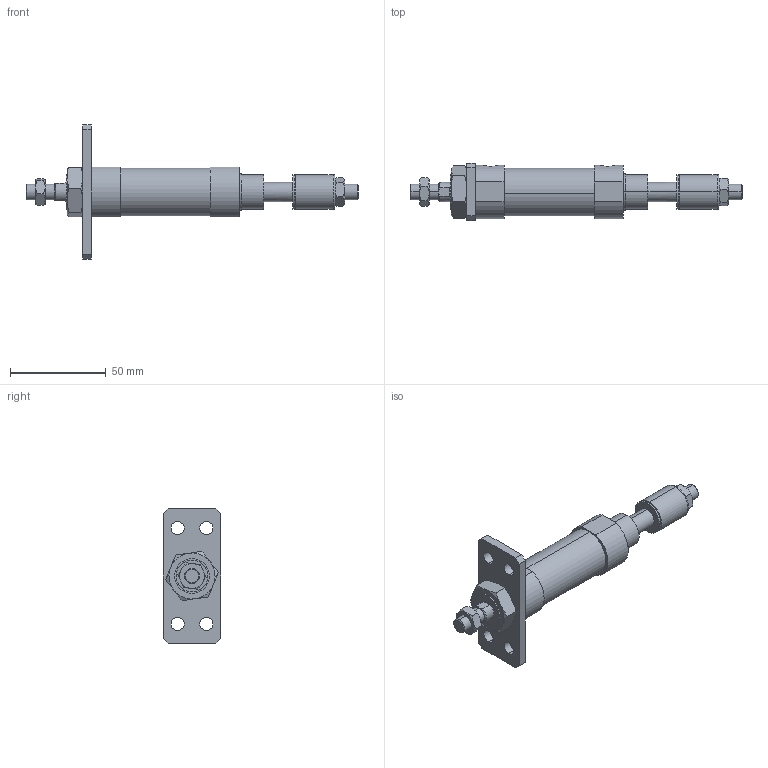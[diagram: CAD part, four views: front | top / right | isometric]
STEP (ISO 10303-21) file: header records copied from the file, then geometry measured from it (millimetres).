
FILE_DESCRIPTION (( 'STEP AP203' ), '1' );
FILE_NAME ('JGA7-20-15-A.STEP', '2016-04-20T01:19:18', ( '' ), ( '' ), 'SwSTEP 2.0', 'SolidWorks 2014', '' );
FILE_SCHEMA (( 'CONFIG_CONTROL_DESIGN' ));
Length unit declared in the file: millimetre
Products named in the file (8): JGA7-20-Turn; M18x1.5-8mm; 20-15; J#2-20-A; M8x1.25-5mm; JGA7-20A-15; JGA7-20-15-A; JGLH2-20B
Assembly tree (8 placements, depth 2):
  JGA7-20-15-A
    JGLH2-20B
    20-15
    JGA7-20A-15
    M8x1.25-5mm  x2
    M18x1.5-8mm
    J#2-20-A
    JGA7-20-Turn
Bounding box: 173 x 30 x 70 mm (x, y, z)
Volume: 65415.5 mm3; surface area: 23638.7 mm2
Topology: 8 solids, 8 shells, 165 faces, 362 edges, 226 vertices
Faces by surface type: plane 67, cylinder 52, torus 38, cone 8
Entity records: 5254 total; most frequent: CARTESIAN_POINT 1190, DIRECTION 702, ORIENTED_EDGE 628, EDGE_CURVE 314, AXIS2_PLACEMENT_3D 294, VERTEX_POINT 198, EDGE_LOOP 172, ADVANCED_FACE 143
